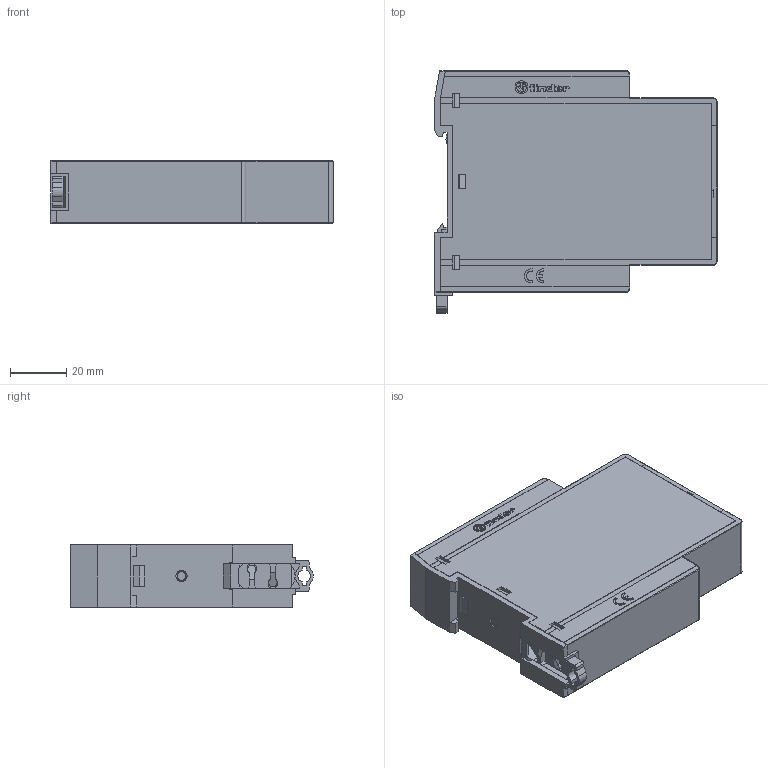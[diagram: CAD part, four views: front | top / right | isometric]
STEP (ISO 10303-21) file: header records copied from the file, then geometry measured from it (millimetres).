
FILE_DESCRIPTION(/* description */ ('Unknown'),/* implementation_level */ '2;1');
FILE_NAME(/* name */ '8382',/* time_stamp */ '2016-12-05T15:04:29+01:00',/* author */ ('Unknown'),/* organization */ ('Unknown'),/* preprocessor_version */ 'ST-DEVELOPER v16.7',/* originating_system */ 'DEX',/* authorisation */ $);
FILE_SCHEMA (('AUTOMOTIVE_DESIGN {1 0 10303 214 3 1 1}'));
Length unit declared in the file: millimetre
Products named in the file (1): Complessivo 83_82
Bounding box: 100.3 x 86.25 x 22.5 mm (x, y, z)
Surface area: 28166.3 mm2 (no closed solid volume)
Topology: 0 solids, 102 shells, 1221 faces, 4660 edges, 3523 vertices
Faces by surface type: plane 1048, cylinder 99, cone 32, torus 18, bspline 14, sphere 10
Full cylindrical faces by diameter (mm): 3 x2, 4.566 x2, 5.1 x5
Entity records: 49474 total; most frequent: CARTESIAN_POINT 10923, DIRECTION 7385, ORIENTED_EDGE 6676, EDGE_CURVE 4631, LINE 4077, VECTOR 4077, VERTEX_POINT 3512, AXIS2_PLACEMENT_3D 1654
